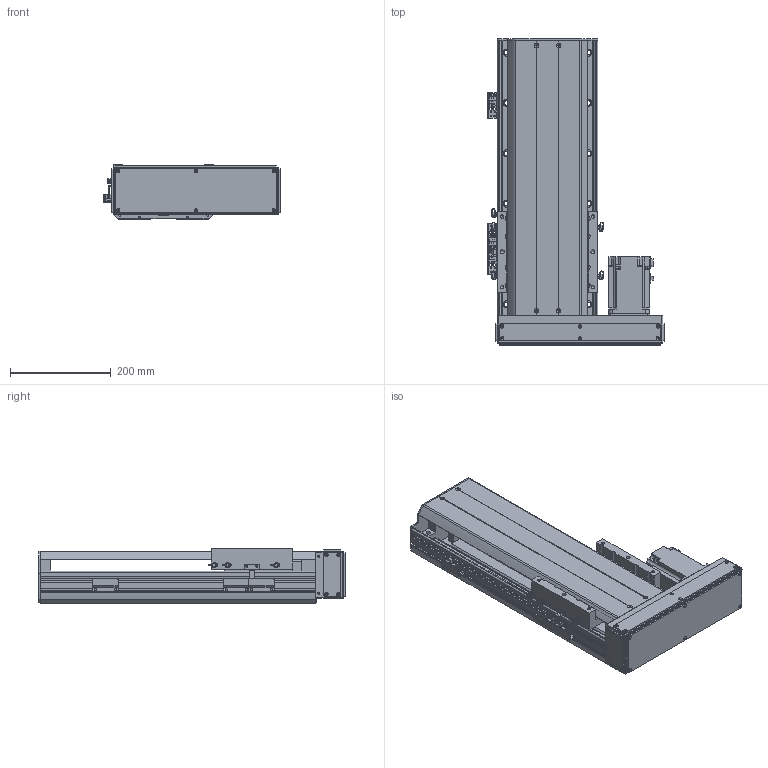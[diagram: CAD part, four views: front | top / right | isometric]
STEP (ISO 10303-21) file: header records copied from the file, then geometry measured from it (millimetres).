
FILE_DESCRIPTION(/* description */ ('MANUFACTURE'),/* implementation_level */ '2;1');
FILE_NAME(/* name */ '\\192.168.0.160\disk1\HAN SHIN Master\B-설계부문\C-표준\B-2024년\BC02-표준도면\+로봇 개선표준도면\표준 승인도 작업 폴더\3D\HG200\HG200병렬\우병렬\HG200-R70-N-0300-L10.stp',/* time_stamp */ '2024-02-23T17:25:53+09:00',/* author */ ('User'),/* organization */ (''),/* preprocessor_version */ 'ST-DEVELOPER v18.1',/* originating_system */ 'Autodesk Inventor 2022',/* authorisation */ 'LIP');
FILE_SCHEMA (('AUTOMOTIVE_DESIGN { 1 0 10303 214 3 1 1 }'));
Products named in the file (22): HG200-L70-N-0500-R10; HR200 S BASE-개선; HR180 FRONT BLOCK; HR180 FRONT BLOCK_1; HR120 STOPPER; HR200 S UPCOVER; HR200 TABLE (W,N); 750W MOTOR PLATE; HG200 750W LR MOTOR PLATE-사출; hg-kr73_; 화살표; HR160 400W LR BELT COVER; HR200 ACRYL COVER -1; HR200 ACRYL COVER -1_1; HR200 ACRYL COVER -1_2; HG200 BOTTOM COVER; HR200 SENSOR DOG; SENSOR BRK(EE-SX674A); EE_SX674A; hsr_ftht_A-M6F_grease_nipple_joint; NIPPLE CAP(신규); HR200 FRONT COVER
Assembly tree (36 placements, depth 2):
  HG200-L70-N-0500-R10
    HR200 S BASE-개선
    HR180 FRONT BLOCK
    HR180 FRONT BLOCK_1
    HR120 STOPPER  x2
    HR200 S UPCOVER
    HR200 TABLE (W,N)
    750W MOTOR PLATE
    HG200 750W LR MOTOR PLATE-사출
    hg-kr73_
    화살표  x2
    hsr_ftht_A-M6F_grease_nipple_joint  x5
    NIPPLE CAP(신규)  x5
    HR160 400W LR BELT COVER
    HR200 ACRYL COVER -1
    HR200 ACRYL COVER -1_1
    HR200 ACRYL COVER -1_2  x2
    HG200 BOTTOM COVER
    HR200 SENSOR DOG
    EE_SX674A  x3
    SENSOR BRK(EE-SX674A)  x3
    HR200 FRONT COVER
Bounding box: 351 x 608 x 109 mm (x, y, z)
Volume: 5093294.1 mm3; surface area: 1371173.5 mm2
Topology: 36 solids, 36 shells, 3821 faces, 10730 edges, 7082 vertices
Faces by surface type: plane 2674, cylinder 830, cone 223, sphere 44, torus 30, bspline 20
Full cylindrical faces by diameter (mm): 2.459 x50, 3 x10, 3.242 x18, 3.4 x20, 3.5 x6, 4 x6, 4.134 x10, 4.5 x14, 4.917 x48, 5 x20, 5.5 x5, 5.6 x5, 5.9 x4, 6 x11, 6.5 x10, 6.6 x28, 6.647 x22, 7 x4, 7.6 x4, 8 x4, 9 x24, 9.5 x1, 11 x28, 14 x12, 19 x1, 25 x1, 27 x1, 30 x1, 32 x1, 38 x1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
Entity records: 107750 total; most frequent: CARTESIAN_POINT 20553, ORIENTED_EDGE 18124, DIRECTION 16980, EDGE_CURVE 9062, LINE 7334, VECTOR 7334, VERTEX_POINT 6050, AXIS2_PLACEMENT_3D 4823
